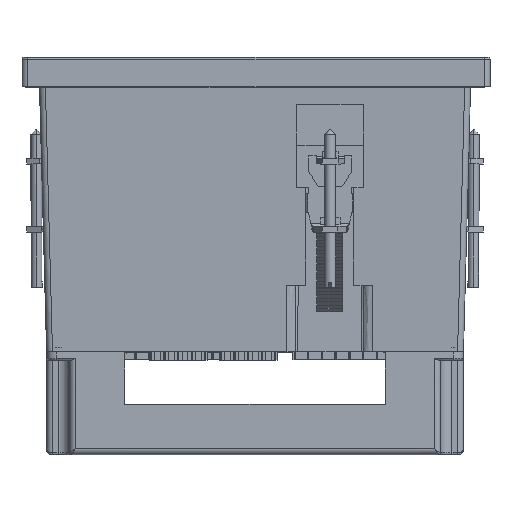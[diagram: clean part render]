
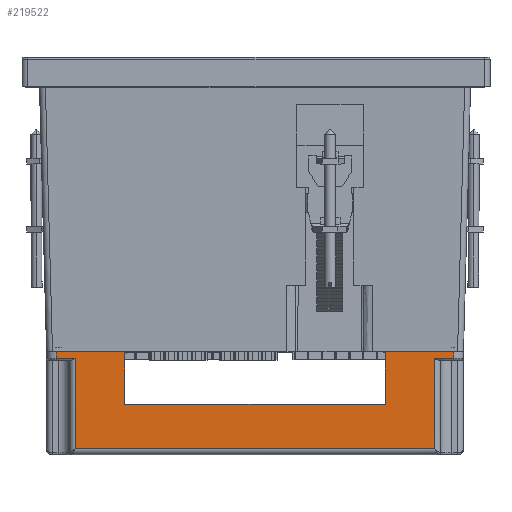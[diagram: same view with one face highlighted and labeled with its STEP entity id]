
A CAD part, front view. The second image highlights one B-rep face of the part: STEP entity #219522.
In plain terms, the highlighted planar face has unit normal (0, -1, 0) as drawn and (1, 0, 0) by its records, which use the part's own axes.
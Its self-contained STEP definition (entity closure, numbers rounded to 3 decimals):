
#270 = VERTEX_POINT ( 'NONE', #192741 ) ;
#584 = VERTEX_POINT ( 'NONE', #108152 ) ;
#3937 = EDGE_LOOP ( 'NONE', ( #64905, #42652, #17777, #68056, #200149, #163656, #194832, #86737, #27530, #6631, #155316, #19001 ) ) ;
#6631 = ORIENTED_EDGE ( 'NONE', *, *, #27851, .T. ) ;
#14489 = DIRECTION ( 'NONE',  ( 0., 0., 1. ) ) ;
#15561 = CARTESIAN_POINT ( 'NONE',  ( 53., 45.668, 26.2 ) ) ;
#17777 = ORIENTED_EDGE ( 'NONE', *, *, #43496, .T. ) ;
#19001 = ORIENTED_EDGE ( 'NONE', *, *, #160488, .T. ) ;
#21197 = VECTOR ( 'NONE', #135651, 1000. ) ;
#22770 = LINE ( 'NONE', #190964, #42659 ) ;
#23152 = CARTESIAN_POINT ( 'NONE',  ( 53., 50.5, 0. ) ) ;
#25787 = VERTEX_POINT ( 'NONE', #60521 ) ;
#25991 = CARTESIAN_POINT ( 'NONE',  ( 53., 50.5, 0. ) ) ;
#27530 = ORIENTED_EDGE ( 'NONE', *, *, #120982, .F. ) ;
#27851 = EDGE_CURVE ( 'NONE', #189888, #94869, #98844, .T. ) ;
#31532 = DIRECTION ( 'NONE',  ( 0., 0., -1. ) ) ;
#34430 = PLANE ( 'NONE',  #178251 ) ;
#39000 = CARTESIAN_POINT ( 'NONE',  ( 53., -33.15, 13.4 ) ) ;
#42652 = ORIENTED_EDGE ( 'NONE', *, *, #111478, .T. ) ;
#42659 = VECTOR ( 'NONE', #92967, 1000. ) ;
#43496 = EDGE_CURVE ( 'NONE', #584, #270, #149562, .T. ) ;
#43813 = LINE ( 'NONE', #25991, #104737 ) ;
#51435 = CARTESIAN_POINT ( 'NONE',  ( 53., -33.15, 0. ) ) ;
#53573 = LINE ( 'NONE', #39000, #219250 ) ;
#54509 = EDGE_CURVE ( 'NONE', #175618, #194572, #53573, .T. ) ;
#58420 = CARTESIAN_POINT ( 'NONE',  ( 53., -33.15, 13.4 ) ) ;
#60521 = CARTESIAN_POINT ( 'NONE',  ( 53., 45.668, 24.7 ) ) ;
#61977 = CARTESIAN_POINT ( 'NONE',  ( 53., -33.15, 13.4 ) ) ;
#64905 = ORIENTED_EDGE ( 'NONE', *, *, #160991, .T. ) ;
#68056 = ORIENTED_EDGE ( 'NONE', *, *, #124094, .T. ) ;
#73286 = VECTOR ( 'NONE', #173159, 1000. ) ;
#77233 = VECTOR ( 'NONE', #31532, 1000. ) ;
#83564 = VERTEX_POINT ( 'NONE', #104662 ) ;
#84395 = LINE ( 'NONE', #99003, #21197 ) ;
#85655 = CARTESIAN_POINT ( 'NONE',  ( 53., 50.5, 26.2 ) ) ;
#86737 = ORIENTED_EDGE ( 'NONE', *, *, #154960, .T. ) ;
#87539 = EDGE_CURVE ( 'NONE', #119782, #175618, #193140, .T. ) ;
#92967 = DIRECTION ( 'NONE',  ( 0., 0., 1. ) ) ;
#94256 = CARTESIAN_POINT ( 'NONE',  ( 53., -45.668, 24.7 ) ) ;
#94869 = VERTEX_POINT ( 'NONE', #174403 ) ;
#98844 = LINE ( 'NONE', #124036, #115012 ) ;
#99003 = CARTESIAN_POINT ( 'NONE',  ( 53., -50.5, 1.66 ) ) ;
#100172 = VECTOR ( 'NONE', #214664, 1000. ) ;
#100239 = CARTESIAN_POINT ( 'NONE',  ( 53., 50.5, 1.66 ) ) ;
#104662 = CARTESIAN_POINT ( 'NONE',  ( 53., -45.668, 1.66 ) ) ;
#104737 = VECTOR ( 'NONE', #195261, 1000. ) ;
#105752 = FACE_OUTER_BOUND ( 'NONE', #3937, .T. ) ;
#108152 = CARTESIAN_POINT ( 'NONE',  ( 53., -50.5, 1.66 ) ) ;
#111478 = EDGE_CURVE ( 'NONE', #83564, #584, #84395, .T. ) ;
#114809 = VECTOR ( 'NONE', #171846, 1000. ) ;
#115012 = VECTOR ( 'NONE', #212991, 1000. ) ;
#119448 = VECTOR ( 'NONE', #206050, 1000. ) ;
#119782 = VERTEX_POINT ( 'NONE', #123497 ) ;
#119790 = VERTEX_POINT ( 'NONE', #23152 ) ;
#120945 = CARTESIAN_POINT ( 'NONE',  ( 53., -45.668, 26.2 ) ) ;
#120982 = EDGE_CURVE ( 'NONE', #189888, #119790, #121805, .T. ) ;
#121805 = LINE ( 'NONE', #172940, #114809 ) ;
#123497 = CARTESIAN_POINT ( 'NONE',  ( 53., 33.15, 13.4 ) ) ;
#124036 = CARTESIAN_POINT ( 'NONE',  ( 53., 45.668, 1.66 ) ) ;
#124094 = EDGE_CURVE ( 'NONE', #270, #194572, #43813, .T. ) ;
#133072 = VECTOR ( 'NONE', #14489, 1000. ) ;
#135651 = DIRECTION ( 'NONE',  ( 0., -1., 0. ) ) ;
#138137 = CARTESIAN_POINT ( 'NONE',  ( 53., 50.5, 24.7 ) ) ;
#140909 = DIRECTION ( 'NONE',  ( 0., 0., -1. ) ) ;
#144567 = CARTESIAN_POINT ( 'NONE',  ( 53., 50.5, 0. ) ) ;
#145934 = CARTESIAN_POINT ( 'NONE',  ( 53., 33.15, 0. ) ) ;
#149562 = LINE ( 'NONE', #201856, #77233 ) ;
#153995 = VERTEX_POINT ( 'NONE', #145934 ) ;
#154679 = DIRECTION ( 'NONE',  ( 0., -1., 0. ) ) ;
#154960 = EDGE_CURVE ( 'NONE', #153995, #119790, #180187, .T. ) ;
#155316 = ORIENTED_EDGE ( 'NONE', *, *, #197438, .T. ) ;
#158123 = DIRECTION ( 'NONE',  ( 0., 0., -1. ) ) ;
#158766 = VECTOR ( 'NONE', #140909, 1000. ) ;
#160488 = EDGE_CURVE ( 'NONE', #25787, #207746, #168276, .T. ) ;
#160991 = EDGE_CURVE ( 'NONE', #207746, #83564, #205525, .T. ) ;
#163656 = ORIENTED_EDGE ( 'NONE', *, *, #87539, .F. ) ;
#164905 = LINE ( 'NONE', #15561, #133072 ) ;
#168276 = LINE ( 'NONE', #138137, #119448 ) ;
#171846 = DIRECTION ( 'NONE',  ( 0., 0., -1. ) ) ;
#172940 = CARTESIAN_POINT ( 'NONE',  ( 53., 50.5, 26.2 ) ) ;
#173159 = DIRECTION ( 'NONE',  ( 0., -1., 0. ) ) ;
#173587 = DIRECTION ( 'NONE',  ( -1., 0., 0. ) ) ;
#174403 = CARTESIAN_POINT ( 'NONE',  ( 53., 45.668, 1.66 ) ) ;
#175618 = VERTEX_POINT ( 'NONE', #61977 ) ;
#178251 = AXIS2_PLACEMENT_3D ( 'NONE', #85655, #173587, #154679 ) ;
#180187 = LINE ( 'NONE', #144567, #100172 ) ;
#189888 = VERTEX_POINT ( 'NONE', #100239 ) ;
#190964 = CARTESIAN_POINT ( 'NONE',  ( 53., 33.15, 13.4 ) ) ;
#192122 = EDGE_CURVE ( 'NONE', #153995, #119782, #22770, .T. ) ;
#192741 = CARTESIAN_POINT ( 'NONE',  ( 53., -50.5, 0. ) ) ;
#193140 = LINE ( 'NONE', #58420, #73286 ) ;
#194572 = VERTEX_POINT ( 'NONE', #51435 ) ;
#194832 = ORIENTED_EDGE ( 'NONE', *, *, #192122, .F. ) ;
#195261 = DIRECTION ( 'NONE',  ( 0., 1., 0. ) ) ;
#197438 = EDGE_CURVE ( 'NONE', #94869, #25787, #164905, .T. ) ;
#200149 = ORIENTED_EDGE ( 'NONE', *, *, #54509, .F. ) ;
#201856 = CARTESIAN_POINT ( 'NONE',  ( 53., -50.5, 26.2 ) ) ;
#205525 = LINE ( 'NONE', #120945, #158766 ) ;
#206050 = DIRECTION ( 'NONE',  ( 0., -1., 0. ) ) ;
#207746 = VERTEX_POINT ( 'NONE', #94256 ) ;
#212991 = DIRECTION ( 'NONE',  ( 0., -1., 0. ) ) ;
#214664 = DIRECTION ( 'NONE',  ( 0., 1., 0. ) ) ;
#219250 = VECTOR ( 'NONE', #158123, 1000. ) ;
#219522 = ADVANCED_FACE ( 'NONE', ( #105752 ), #34430, .F. ) ;
